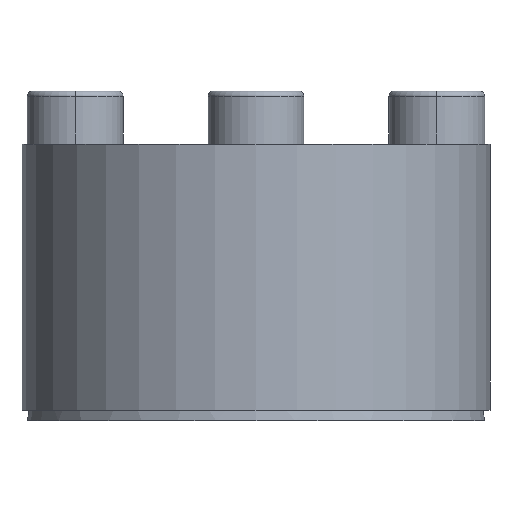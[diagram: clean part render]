
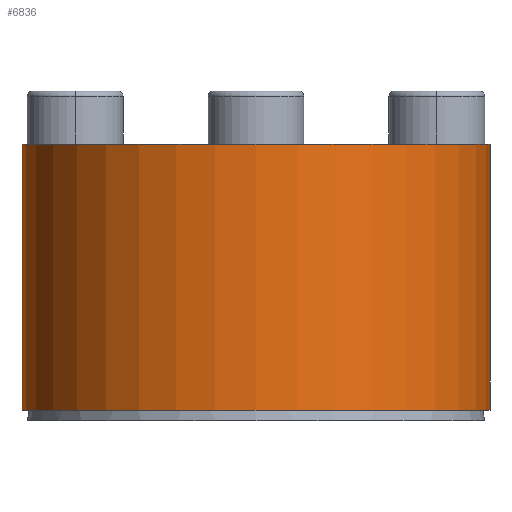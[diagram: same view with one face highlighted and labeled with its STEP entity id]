
A CAD part, front view. The second image highlights one B-rep face of the part: STEP entity #6836.
In plain terms, the highlighted cylindrical face has radius 11 mm (diameter 22 mm), a partial arc.
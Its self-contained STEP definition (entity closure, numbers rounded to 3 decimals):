
#201 = EDGE_CURVE ( 'NONE', #6770, #4824, #1508, .T. ) ;
#330 = AXIS2_PLACEMENT_3D ( 'NONE', #6229, #6198, #6176 ) ;
#655 = DIRECTION ( 'NONE',  ( -1., 0., 0. ) ) ;
#699 = DIRECTION ( 'NONE',  ( 0., 0., -1. ) ) ;
#786 = CARTESIAN_POINT ( 'NONE',  ( 0., 0., 0.512 ) ) ;
#947 = EDGE_CURVE ( 'NONE', #1926, #6770, #2490, .T. ) ;
#968 = CARTESIAN_POINT ( 'NONE',  ( 11., 0., 13.012 ) ) ;
#1463 = ORIENTED_EDGE ( 'NONE', *, *, #3549, .F. ) ;
#1508 = CIRCLE ( 'NONE', #330, 11. ) ;
#1689 = EDGE_CURVE ( 'NONE', #1926, #3310, #1870, .T. ) ;
#1870 = CIRCLE ( 'NONE', #4379, 11. ) ;
#1926 = VERTEX_POINT ( 'NONE', #4226 ) ;
#2490 = LINE ( 'NONE', #2609, #6517 ) ;
#2577 = DIRECTION ( 'NONE',  ( 0., 0., 1. ) ) ;
#2606 = ORIENTED_EDGE ( 'NONE', *, *, #1689, .F. ) ;
#2609 = CARTESIAN_POINT ( 'NONE',  ( 11., 0., 0.512 ) ) ;
#2638 = CARTESIAN_POINT ( 'NONE',  ( -11., 0., 0.512 ) ) ;
#3221 = CARTESIAN_POINT ( 'NONE',  ( 0., 0., 0.512 ) ) ;
#3310 = VERTEX_POINT ( 'NONE', #2638 ) ;
#3385 = CYLINDRICAL_SURFACE ( 'NONE', #6980, 11. ) ;
#3546 = ORIENTED_EDGE ( 'NONE', *, *, #201, .T. ) ;
#3549 = EDGE_CURVE ( 'NONE', #3310, #4824, #3812, .T. ) ;
#3812 = LINE ( 'NONE', #5141, #6708 ) ;
#4062 = ORIENTED_EDGE ( 'NONE', *, *, #947, .T. ) ;
#4226 = CARTESIAN_POINT ( 'NONE',  ( 11., 0., 0.512 ) ) ;
#4334 = DIRECTION ( 'NONE',  ( 0., 0., 1. ) ) ;
#4379 = AXIS2_PLACEMENT_3D ( 'NONE', #786, #699, #655 ) ;
#4621 = CARTESIAN_POINT ( 'NONE',  ( -11., 0., 13.012 ) ) ;
#4824 = VERTEX_POINT ( 'NONE', #4621 ) ;
#5141 = CARTESIAN_POINT ( 'NONE',  ( -11., 0., 0.512 ) ) ;
#5343 = EDGE_LOOP ( 'NONE', ( #1463, #2606, #4062, #3546 ) ) ;
#5673 = DIRECTION ( 'NONE',  ( 0., 0., 1. ) ) ;
#6176 = DIRECTION ( 'NONE',  ( -1., 0., 0. ) ) ;
#6198 = DIRECTION ( 'NONE',  ( 0., 0., -1. ) ) ;
#6229 = CARTESIAN_POINT ( 'NONE',  ( 0., 0., 13.012 ) ) ;
#6517 = VECTOR ( 'NONE', #2577, 1000. ) ;
#6708 = VECTOR ( 'NONE', #5673, 1000. ) ;
#6712 = DIRECTION ( 'NONE',  ( 1., 0., 0. ) ) ;
#6770 = VERTEX_POINT ( 'NONE', #968 ) ;
#6810 = FACE_OUTER_BOUND ( 'NONE', #5343, .T. ) ;
#6836 = ADVANCED_FACE ( 'NONE', ( #6810 ), #3385, .T. ) ;
#6980 = AXIS2_PLACEMENT_3D ( 'NONE', #3221, #4334, #6712 ) ;
